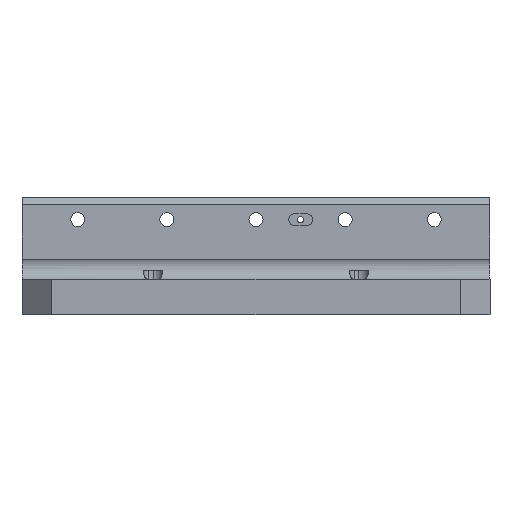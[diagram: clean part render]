
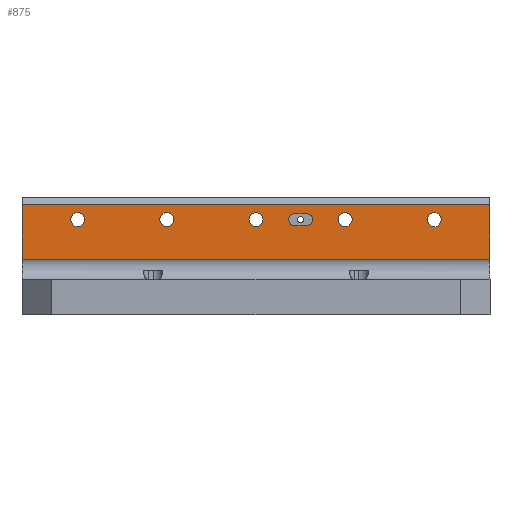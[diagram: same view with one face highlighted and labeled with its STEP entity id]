
A CAD part, left-side view. The second image highlights one B-rep face of the part: STEP entity #875.
In plain terms, the highlighted planar face has unit normal (-1, 0, 0).
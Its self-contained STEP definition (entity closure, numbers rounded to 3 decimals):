
#875=ADVANCED_FACE('Pad.2',(#2030,#2031,#2032,#2033,#2034,#2035,#2036),#2037,.F.);
#2030=FACE_OUTER_BOUND('',#3677,.T.);
#2031=FACE_BOUND('',#3678,.T.);
#2032=FACE_BOUND('',#3679,.T.);
#2033=FACE_BOUND('',#3680,.T.);
#2034=FACE_BOUND('',#3681,.T.);
#2035=FACE_BOUND('',#3682,.T.);
#2036=FACE_BOUND('',#3683,.T.);
#2037=PLANE('',#3684);
#3677=EDGE_LOOP('',(#5777,#5778,#5779,#5780));
#3678=EDGE_LOOP('',(#5781,#5782,#5783,#5784,#5785,#5786));
#3679=EDGE_LOOP('',(#5787,#5788,#5789,#5790));
#3680=EDGE_LOOP('',(#5791,#5792,#5793,#5794));
#3681=EDGE_LOOP('',(#5795,#5796,#5797,#5798));
#3682=EDGE_LOOP('',(#5799,#5800,#5801,#5802));
#3683=EDGE_LOOP('',(#5803,#5804,#5805,#5806));
#3684=AXIS2_PLACEMENT_3D('',#5807,#5808,#5809);
#5777=ORIENTED_EDGE('',*,*,#9752,.T.);
#5778=ORIENTED_EDGE('',*,*,#9753,.T.);
#5779=ORIENTED_EDGE('',*,*,#9754,.F.);
#5780=ORIENTED_EDGE('',*,*,#9755,.F.);
#5781=ORIENTED_EDGE('',*,*,#9746,.F.);
#5782=ORIENTED_EDGE('',*,*,#9749,.F.);
#5783=ORIENTED_EDGE('',*,*,#9756,.F.);
#5784=ORIENTED_EDGE('',*,*,#9737,.F.);
#5785=ORIENTED_EDGE('',*,*,#9757,.F.);
#5786=ORIENTED_EDGE('',*,*,#9740,.F.);
#5787=ORIENTED_EDGE('',*,*,#9758,.T.);
#5788=ORIENTED_EDGE('',*,*,#9651,.T.);
#5789=ORIENTED_EDGE('',*,*,#9654,.T.);
#5790=ORIENTED_EDGE('',*,*,#9759,.T.);
#5791=ORIENTED_EDGE('',*,*,#9760,.T.);
#5792=ORIENTED_EDGE('',*,*,#9303,.T.);
#5793=ORIENTED_EDGE('',*,*,#9306,.T.);
#5794=ORIENTED_EDGE('',*,*,#9761,.T.);
#5795=ORIENTED_EDGE('',*,*,#9762,.T.);
#5796=ORIENTED_EDGE('',*,*,#9496,.T.);
#5797=ORIENTED_EDGE('',*,*,#9499,.T.);
#5798=ORIENTED_EDGE('',*,*,#9763,.T.);
#5799=ORIENTED_EDGE('',*,*,#9764,.T.);
#5800=ORIENTED_EDGE('',*,*,#9624,.T.);
#5801=ORIENTED_EDGE('',*,*,#9627,.T.);
#5802=ORIENTED_EDGE('',*,*,#9765,.T.);
#5803=ORIENTED_EDGE('',*,*,#9766,.T.);
#5804=ORIENTED_EDGE('',*,*,#9696,.T.);
#5805=ORIENTED_EDGE('',*,*,#9699,.T.);
#5806=ORIENTED_EDGE('',*,*,#9767,.T.);
#5807=CARTESIAN_POINT('',(40.0,0.0,62.));
#5808=DIRECTION('',(1.0,-0.0,0.0));
#5809=DIRECTION('',(0.0,0.0,-1.0));
#9303=EDGE_CURVE('',#11043,#11047,#11049,.T.);
#9306=EDGE_CURVE('',#11047,#11051,#11054,.T.);
#9496=EDGE_CURVE('',#11368,#11372,#11374,.T.);
#9499=EDGE_CURVE('',#11372,#11376,#11379,.T.);
#9624=EDGE_CURVE('',#11584,#11588,#11590,.T.);
#9627=EDGE_CURVE('',#11588,#11592,#11595,.T.);
#9651=EDGE_CURVE('',#11629,#11633,#11635,.T.);
#9654=EDGE_CURVE('',#11633,#11637,#11640,.T.);
#9696=EDGE_CURVE('',#11704,#11708,#11710,.T.);
#9699=EDGE_CURVE('',#11708,#11712,#11715,.T.);
#9737=EDGE_CURVE('',#11777,#11773,#11779,.F.);
#9740=EDGE_CURVE('',#11781,#11784,#11785,.F.);
#9746=EDGE_CURVE('',#11792,#11781,#11794,.F.);
#9749=EDGE_CURVE('',#11796,#11792,#11799,.F.);
#9752=EDGE_CURVE('',#11802,#11803,#11804,.T.);
#9753=EDGE_CURVE('',#11803,#11805,#11806,.T.);
#9754=EDGE_CURVE('',#11807,#11805,#11808,.T.);
#9755=EDGE_CURVE('',#11802,#11807,#11809,.T.);
#9756=EDGE_CURVE('',#11773,#11796,#11810,.F.);
#9757=EDGE_CURVE('',#11784,#11777,#11811,.T.);
#9758=EDGE_CURVE('',#11812,#11629,#11813,.T.);
#9759=EDGE_CURVE('',#11637,#11812,#11814,.T.);
#9760=EDGE_CURVE('',#11815,#11043,#11816,.T.);
#9761=EDGE_CURVE('',#11051,#11815,#11817,.T.);
#9762=EDGE_CURVE('',#11818,#11368,#11819,.T.);
#9763=EDGE_CURVE('',#11376,#11818,#11820,.T.);
#9764=EDGE_CURVE('',#11821,#11584,#11822,.T.);
#9765=EDGE_CURVE('',#11592,#11821,#11823,.T.);
#9766=EDGE_CURVE('',#11824,#11704,#11825,.T.);
#9767=EDGE_CURVE('',#11712,#11824,#11826,.T.);
#11043=VERTEX_POINT('',#13563);
#11047=VERTEX_POINT('',#13568);
#11049=CIRCLE('',#13571,4.75);
#11051=VERTEX_POINT('',#13573);
#11054=CIRCLE('',#13577,4.75);
#11368=VERTEX_POINT('',#14027);
#11372=VERTEX_POINT('',#14032);
#11374=CIRCLE('',#14035,4.75);
#11376=VERTEX_POINT('',#14037);
#11379=CIRCLE('',#14041,4.75);
#11584=VERTEX_POINT('',#14406);
#11588=VERTEX_POINT('',#14411);
#11590=CIRCLE('',#14414,4.75);
#11592=VERTEX_POINT('',#14416);
#11595=CIRCLE('',#14420,4.75);
#11629=VERTEX_POINT('',#14521);
#11633=VERTEX_POINT('',#14526);
#11635=CIRCLE('',#14529,4.75);
#11637=VERTEX_POINT('',#14531);
#11640=CIRCLE('',#14535,4.75);
#11704=VERTEX_POINT('',#14611);
#11708=VERTEX_POINT('',#14616);
#11710=CIRCLE('',#14619,4.75);
#11712=VERTEX_POINT('',#14621);
#11715=CIRCLE('',#14625,4.75);
#11773=VERTEX_POINT('',#14694);
#11777=VERTEX_POINT('',#14699);
#11779=CIRCLE('',#14702,4.0);
#11781=VERTEX_POINT('',#14704);
#11784=VERTEX_POINT('',#14708);
#11785=CIRCLE('',#14709,4.0);
#11792=VERTEX_POINT('',#14717);
#11794=CIRCLE('',#14720,4.0);
#11796=VERTEX_POINT('',#14722);
#11799=LINE('',#14726,#14727);
#11802=VERTEX_POINT('',#14731);
#11803=VERTEX_POINT('',#14732);
#11804=LINE('',#14733,#14734);
#11805=VERTEX_POINT('',#14735);
#11806=LINE('',#14736,#14737);
#11807=VERTEX_POINT('',#14738);
#11808=LINE('',#14739,#14740);
#11809=LINE('',#14741,#14742);
#11810=CIRCLE('',#14743,4.0);
#11811=LINE('',#14744,#14745);
#11812=VERTEX_POINT('',#14746);
#11813=CIRCLE('',#14747,4.75);
#11814=CIRCLE('',#14748,4.75);
#11815=VERTEX_POINT('',#14749);
#11816=CIRCLE('',#14750,4.75);
#11817=CIRCLE('',#14751,4.75);
#11818=VERTEX_POINT('',#14752);
#11819=CIRCLE('',#14753,4.75);
#11820=CIRCLE('',#14754,4.75);
#11821=VERTEX_POINT('',#14755);
#11822=CIRCLE('',#14756,4.75);
#11823=CIRCLE('',#14757,4.75);
#11824=VERTEX_POINT('',#14758);
#11825=CIRCLE('',#14759,4.75);
#11826=CIRCLE('',#14760,4.75);
#13563=CARTESIAN_POINT('',(40.0,-55.25,47.0));
#13568=CARTESIAN_POINT('',(40.0,-64.169,49.277));
#13571=AXIS2_PLACEMENT_3D('',#17105,#17106,#17107);
#13573=CARTESIAN_POINT('',(40.0,-64.75,47.0));
#13577=AXIS2_PLACEMENT_3D('',#17109,#17110,#17111);
#14027=CARTESIAN_POINT('',(40.0,4.75,47.0));
#14032=CARTESIAN_POINT('',(40.0,-4.169,49.277));
#14035=AXIS2_PLACEMENT_3D('',#17416,#17417,#17418);
#14037=CARTESIAN_POINT('',(40.0,-4.75,47.0));
#14041=AXIS2_PLACEMENT_3D('',#17420,#17421,#17422);
#14406=CARTESIAN_POINT('',(40.0,64.75,47.0));
#14411=CARTESIAN_POINT('',(40.0,55.831,49.277));
#14414=AXIS2_PLACEMENT_3D('',#17616,#17617,#17618);
#14416=CARTESIAN_POINT('',(40.0,55.25,47.0));
#14420=AXIS2_PLACEMENT_3D('',#17620,#17621,#17622);
#14521=CARTESIAN_POINT('',(40.0,-115.25,47.0));
#14526=CARTESIAN_POINT('',(40.0,-124.169,49.277));
#14529=AXIS2_PLACEMENT_3D('',#17655,#17656,#17657);
#14531=CARTESIAN_POINT('',(40.0,-124.75,47.0));
#14535=AXIS2_PLACEMENT_3D('',#17659,#17660,#17661);
#14611=CARTESIAN_POINT('',(40.0,124.75,47.0));
#14616=CARTESIAN_POINT('',(40.0,115.831,49.277));
#14619=AXIS2_PLACEMENT_3D('',#17730,#17731,#17732);
#14621=CARTESIAN_POINT('',(40.0,115.25,47.0));
#14625=AXIS2_PLACEMENT_3D('',#17734,#17735,#17736);
#14694=CARTESIAN_POINT('',(40.0,-38.0,47.0));
#14699=CARTESIAN_POINT('',(40.0,-34.0,43.0));
#14702=AXIS2_PLACEMENT_3D('',#17798,#17799,#17800);
#14704=CARTESIAN_POINT('',(40.0,-22.0,47.0));
#14708=CARTESIAN_POINT('',(40.0,-26.,43.0));
#14709=AXIS2_PLACEMENT_3D('',#17802,#17803,#17804);
#14717=CARTESIAN_POINT('',(40.0,-26.,51.0));
#14720=AXIS2_PLACEMENT_3D('',#17813,#17814,#17815);
#14722=CARTESIAN_POINT('',(40.0,-34.,51.0));
#14726=CARTESIAN_POINT('',(40.0,-30.0,51.0));
#14727=VECTOR('',#17817,1.0);
#14731=CARTESIAN_POINT('',(40.0,-157.5,57.));
#14732=CARTESIAN_POINT('',(40.0,157.5,57.));
#14733=CARTESIAN_POINT('',(40.0,0.0,57.));
#14734=VECTOR('',#17819,1.0);
#14735=CARTESIAN_POINT('',(40.0,157.5,20.359));
#14736=CARTESIAN_POINT('',(40.0,157.5,38.679));
#14737=VECTOR('',#17820,1.0);
#14738=CARTESIAN_POINT('',(40.0,-157.5,20.359));
#14739=CARTESIAN_POINT('',(40.,0.0,20.359));
#14740=VECTOR('',#17821,1.0);
#14741=CARTESIAN_POINT('',(40.0,-157.5,38.679));
#14742=VECTOR('',#17822,1.0);
#14743=AXIS2_PLACEMENT_3D('',#17823,#17824,#17825);
#14744=CARTESIAN_POINT('',(40.0,-30.0,43.0));
#14745=VECTOR('',#17826,1.0);
#14746=CARTESIAN_POINT('',(40.0,-115.831,44.723));
#14747=AXIS2_PLACEMENT_3D('',#17827,#17828,#17829);
#14748=AXIS2_PLACEMENT_3D('',#17830,#17831,#17832);
#14749=CARTESIAN_POINT('',(40.0,-55.831,44.723));
#14750=AXIS2_PLACEMENT_3D('',#17833,#17834,#17835);
#14751=AXIS2_PLACEMENT_3D('',#17836,#17837,#17838);
#14752=CARTESIAN_POINT('',(40.0,4.169,44.723));
#14753=AXIS2_PLACEMENT_3D('',#17839,#17840,#17841);
#14754=AXIS2_PLACEMENT_3D('',#17842,#17843,#17844);
#14755=CARTESIAN_POINT('',(40.0,64.169,44.723));
#14756=AXIS2_PLACEMENT_3D('',#17845,#17846,#17847);
#14757=AXIS2_PLACEMENT_3D('',#17848,#17849,#17850);
#14758=CARTESIAN_POINT('',(40.0,124.169,44.723));
#14759=AXIS2_PLACEMENT_3D('',#17851,#17852,#17853);
#14760=AXIS2_PLACEMENT_3D('',#17854,#17855,#17856);
#17105=CARTESIAN_POINT('',(40.0,-60.0,47.0));
#17106=DIRECTION('',(1.0,-0.0,0.0));
#17107=DIRECTION('',(0.0,0.0,-1.0));
#17109=CARTESIAN_POINT('',(40.0,-60.0,47.0));
#17110=DIRECTION('',(1.0,-0.0,0.0));
#17111=DIRECTION('',(0.0,0.0,-1.0));
#17416=CARTESIAN_POINT('',(40.0,0.,47.0));
#17417=DIRECTION('',(1.0,-0.0,0.0));
#17418=DIRECTION('',(0.0,0.0,-1.0));
#17420=CARTESIAN_POINT('',(40.0,0.0,47.0));
#17421=DIRECTION('',(1.0,-0.0,0.0));
#17422=DIRECTION('',(0.0,0.0,-1.0));
#17616=CARTESIAN_POINT('',(40.0,60.0,47.0));
#17617=DIRECTION('',(1.0,-0.0,0.0));
#17618=DIRECTION('',(0.0,0.0,-1.0));
#17620=CARTESIAN_POINT('',(40.0,60.0,47.0));
#17621=DIRECTION('',(1.0,-0.0,0.0));
#17622=DIRECTION('',(0.0,0.0,-1.0));
#17655=CARTESIAN_POINT('',(40.0,-120.0,47.0));
#17656=DIRECTION('',(1.0,-0.0,0.0));
#17657=DIRECTION('',(0.0,0.0,-1.0));
#17659=CARTESIAN_POINT('',(40.0,-120.0,47.0));
#17660=DIRECTION('',(1.0,-0.0,0.0));
#17661=DIRECTION('',(0.0,0.0,-1.0));
#17730=CARTESIAN_POINT('',(40.0,120.0,47.0));
#17731=DIRECTION('',(1.0,-0.0,0.0));
#17732=DIRECTION('',(0.0,0.0,-1.0));
#17734=CARTESIAN_POINT('',(40.0,120.0,47.0));
#17735=DIRECTION('',(1.0,-0.0,0.0));
#17736=DIRECTION('',(0.0,0.0,-1.0));
#17798=CARTESIAN_POINT('',(40.0,-34.0,47.0));
#17799=DIRECTION('',(1.0,-0.0,0.0));
#17800=DIRECTION('',(0.0,0.0,-1.0));
#17802=CARTESIAN_POINT('',(40.0,-26.0,47.0));
#17803=DIRECTION('',(1.0,-0.0,0.0));
#17804=DIRECTION('',(0.0,0.0,-1.0));
#17813=CARTESIAN_POINT('',(40.0,-26.0,47.0));
#17814=DIRECTION('',(1.0,-0.0,0.0));
#17815=DIRECTION('',(0.0,0.0,-1.0));
#17817=DIRECTION('',(0.0,-1.0,0.0));
#17819=DIRECTION('',(0.0,1.0,0.0));
#17820=DIRECTION('',(0.0,0.0,-1.0));
#17821=DIRECTION('',(0.0,1.0,0.0));
#17822=DIRECTION('',(0.0,0.0,-1.0));
#17823=CARTESIAN_POINT('',(40.0,-34.0,47.0));
#17824=DIRECTION('',(1.0,-0.0,0.0));
#17825=DIRECTION('',(0.0,0.0,-1.0));
#17826=DIRECTION('',(0.0,-1.0,0.0));
#17827=CARTESIAN_POINT('',(40.0,-120.0,47.0));
#17828=DIRECTION('',(1.0,-0.0,0.0));
#17829=DIRECTION('',(0.0,0.0,-1.0));
#17830=CARTESIAN_POINT('',(40.0,-120.0,47.0));
#17831=DIRECTION('',(1.0,-0.0,0.0));
#17832=DIRECTION('',(0.0,0.0,-1.0));
#17833=CARTESIAN_POINT('',(40.0,-60.0,47.0));
#17834=DIRECTION('',(1.0,-0.0,0.0));
#17835=DIRECTION('',(0.0,0.0,-1.0));
#17836=CARTESIAN_POINT('',(40.0,-60.0,47.0));
#17837=DIRECTION('',(1.0,-0.0,0.0));
#17838=DIRECTION('',(0.0,0.0,-1.0));
#17839=CARTESIAN_POINT('',(40.0,0.,47.0));
#17840=DIRECTION('',(1.0,-0.0,0.0));
#17841=DIRECTION('',(0.0,0.0,-1.0));
#17842=CARTESIAN_POINT('',(40.0,0.0,47.0));
#17843=DIRECTION('',(1.0,-0.0,0.0));
#17844=DIRECTION('',(0.0,0.0,-1.0));
#17845=CARTESIAN_POINT('',(40.0,60.0,47.0));
#17846=DIRECTION('',(1.0,-0.0,0.0));
#17847=DIRECTION('',(0.0,0.0,-1.0));
#17848=CARTESIAN_POINT('',(40.0,60.0,47.0));
#17849=DIRECTION('',(1.0,-0.0,0.0));
#17850=DIRECTION('',(0.0,0.0,-1.0));
#17851=CARTESIAN_POINT('',(40.0,120.0,47.0));
#17852=DIRECTION('',(1.0,-0.0,0.0));
#17853=DIRECTION('',(0.0,0.0,-1.0));
#17854=CARTESIAN_POINT('',(40.0,120.0,47.0));
#17855=DIRECTION('',(1.0,-0.0,0.0));
#17856=DIRECTION('',(0.0,0.0,-1.0));
